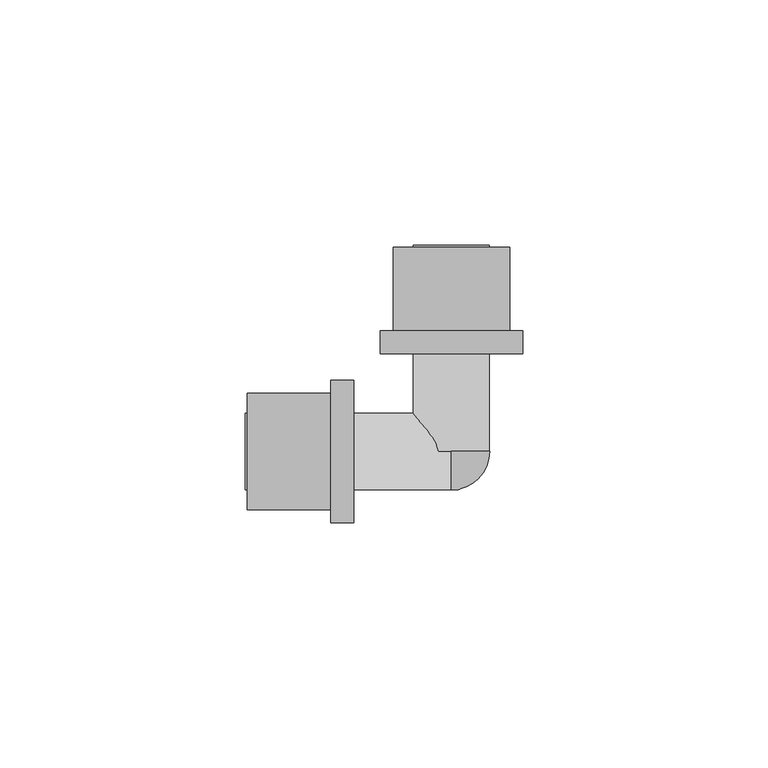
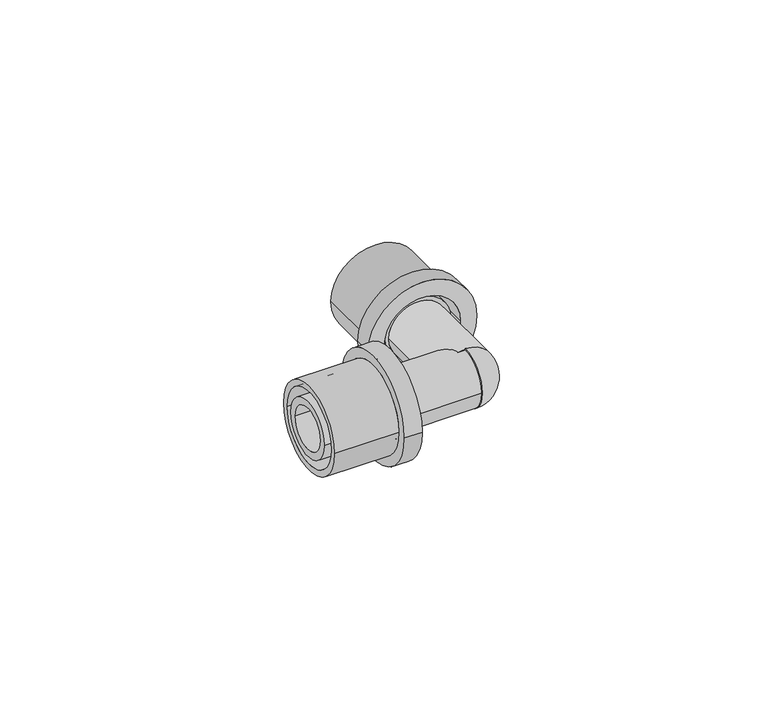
"""IFC4 building model written with IfcOpenShell, lengths in millimetres: pipe fitting geometry, FASTLOC_Corner EX+ : FSL C EX+ AT."""

from ifc_helpers import new_model, si_unit, point, frame, origin, place, context, project, spatial, polyline, circle_curve, ellipse_curve, trimmed, source, transform, mapped, element, save
from ifc_brep_helpers import plane_surface, cylinder_surface, revolved_surface, advanced_brep


def pipe_fitting_43ece0d2(model_context):
    return source(origin(), model_context, "Body", "AdvancedBrep", [
        advanced_brep(
        [(-14.5, 24.6, 0.0), (14.5, 24.6, 0.0), (14.5, 19.9, 0.0), (-14.5, 19.9, 0.0), (-11.85, 41.6, 0.0), (11.85, 41.6, 0.0), (11.85, 24.6, 0.0), (-11.85, 24.6, 0.0), (-10.15, 19.9, 0.0), (10.15, 19.9, 0.0), (10.15, 41.6, 0.0), (-10.15, 41.6, 0.0)],
        [
            (0, 1, circle_curve(frame((0.0, 24.6, 0.0), z_axis=(0.0, -1.0, 0.0), x_axis=(1.0, 0.0, 0.0)), 14.5)),
            (1, 2),
            (2, 3, circle_curve(frame((0.0, 19.9, 0.0), z_axis=(0.0, 1.0, 0.0), x_axis=(1.0, 0.0, 0.0)), 14.5)),
            (3, 0),
            (4, 5, circle_curve(frame((0.0, 41.6, 0.0), z_axis=(0.0, -1.0, 0.0), x_axis=(1.0, 0.0, 0.0)), 11.85)),
            (5, 6),
            (6, 7, circle_curve(frame((0.0, 24.6, 0.0), z_axis=(0.0, 1.0, 0.0), x_axis=(1.0, 0.0, 0.0)), 11.85)),
            (7, 4),
            (8, 9, circle_curve(frame((0.0, 19.9, 0.0), z_axis=(0.0, -1.0, 0.0), x_axis=(1.0, 0.0, 0.0)), 10.15)),
            (9, 10),
            (10, 11, circle_curve(frame((0.0, 41.6, 0.0), z_axis=(0.0, 1.0, 0.0), x_axis=(1.0, 0.0, 0.0)), 10.15)),
            (11, 8),
            (1, 0, circle_curve(frame((0.0, 24.6, 0.0), z_axis=(0.0, -1.0, 0.0), x_axis=(-1.0, 0.0, 0.0)), 14.5)),
            (3, 2, circle_curve(frame((0.0, 19.9, 0.0), z_axis=(0.0, 1.0, 0.0), x_axis=(-1.0, 0.0, 0.0)), 14.5)),
            (6, 7, circle_curve(frame((0.0, 24.6, 0.0), z_axis=(0.0, -1.0, 0.0), x_axis=(-1.0, 0.0, 0.0)), 11.85)),
            (5, 4, circle_curve(frame((0.0, 41.6, 0.0), z_axis=(0.0, -1.0, 0.0), x_axis=(-1.0, 0.0, 0.0)), 11.85)),
            (10, 11, circle_curve(frame((0.0, 41.6, 0.0), z_axis=(0.0, -1.0, 0.0), x_axis=(-1.0, 0.0, 0.0)), 10.15)),
            (9, 8, circle_curve(frame((0.0, 19.9, 0.0), z_axis=(0.0, -1.0, 0.0), x_axis=(-1.0, 0.0, 0.0)), 10.15)),
        ],
        [
            cylinder_surface(frame((0.0, 19.9, 0.0), z_axis=(0.0, 1.0, 0.0), x_axis=(1.0, 0.0, 0.0)), 14.5),
            cylinder_surface(frame((0.0, 19.9, 0.0), z_axis=(0.0, 1.0, 0.0), x_axis=(1.0, 0.0, 0.0)), 11.85),
            revolved_surface(polyline([(10.15, 41.6, 0.0), (10.15, 19.9, 0.0)]), (0.0, 19.9, 0.0), (0.0, 1.0, 0.0)),
            cylinder_surface(frame((0.0, 19.9, 0.0), z_axis=(0.0, 1.0, 0.0), x_axis=(-1.0, 0.0, 0.0)), 14.5),
            plane_surface(frame((0.0, 24.6, 0.0), z_axis=(0.0, 1.0, 0.0), x_axis=(-1.0, 0.0, 0.0))),
            cylinder_surface(frame((0.0, 19.9, 0.0), z_axis=(0.0, 1.0, 0.0), x_axis=(-1.0, 0.0, 0.0)), 11.85),
            plane_surface(frame((0.0, 41.6, 0.0), z_axis=(0.0, 1.0, 0.0), x_axis=(-1.0, 0.0, 0.0))),
            revolved_surface(polyline([(-10.15, 41.6, 0.0), (-10.15, 19.9, 0.0)]), (0.0, 19.9, 0.0), (0.0, 1.0, 0.0)),
            plane_surface(frame((0.0, 19.9, 0.0), z_axis=(0.0, -1.0, 0.0), x_axis=(-1.0, 0.0, 0.0))),
        ],
        [
            (0, [[1, 2, 3, 4]]),
            (1, [[5, 6, 7, 8]]),
            (2, [[9, 10, 11, 12]]),
            (3, [[13, -4, 14, -2]]),
            (4, [[-13, -1], [15, -7]]),
            (5, [[16, -8, -15, -6]]),
            (6, [[-16, -5], [17, -11]]),
            (7, [[18, -12, -17, -10]]),
            (8, [[-14, -3], [-18, -9]]),
        ],
    ),
        advanced_brep(
        [(-24.6, -14.5, 0.0), (-24.6, 14.5, 0.0), (-19.9, 14.5, 0.0), (-19.9, -14.5, 0.0), (-41.6, -11.85, 0.0), (-41.6, 11.85, 0.0), (-24.6, 11.85, 0.0), (-24.6, -11.85, 0.0), (-19.9, -10.15, 0.0), (-19.9, 10.15, 0.0), (-41.6, 10.15, 0.0), (-41.6, -10.15, 0.0)],
        [
            (0, 1, circle_curve(frame((-24.6, 0.0, 0.0), z_axis=(1.0, 0.0, 0.0), x_axis=(0.0, 1.0, 0.0)), 14.5)),
            (1, 2),
            (2, 3, circle_curve(frame((-19.9, 0.0, 0.0), z_axis=(-1.0, 0.0, 0.0), x_axis=(0.0, 1.0, 0.0)), 14.5)),
            (3, 0),
            (4, 5, circle_curve(frame((-41.6, 0.0, 0.0), z_axis=(1.0, 0.0, 0.0), x_axis=(0.0, 1.0, 0.0)), 11.85)),
            (5, 6),
            (6, 7, circle_curve(frame((-24.6, 0.0, 0.0), z_axis=(-1.0, 0.0, 0.0), x_axis=(0.0, 1.0, 0.0)), 11.85)),
            (7, 4),
            (8, 9, circle_curve(frame((-19.9, 0.0, 0.0), z_axis=(1.0, 0.0, 0.0), x_axis=(0.0, 1.0, 0.0)), 10.15)),
            (9, 10),
            (10, 11, circle_curve(frame((-41.6, 0.0, 0.0), z_axis=(-1.0, 0.0, 0.0), x_axis=(0.0, 1.0, 0.0)), 10.15)),
            (11, 8),
            (1, 0, circle_curve(frame((-24.6, 0.0, 0.0), z_axis=(1.0, 0.0, 0.0), x_axis=(0.0, -1.0, 0.0)), 14.5)),
            (3, 2, circle_curve(frame((-19.9, 0.0, 0.0), z_axis=(-1.0, 0.0, 0.0), x_axis=(0.0, -1.0, 0.0)), 14.5)),
            (6, 7, circle_curve(frame((-24.6, 0.0, 0.0), z_axis=(1.0, 0.0, 0.0), x_axis=(0.0, -1.0, 0.0)), 11.85)),
            (5, 4, circle_curve(frame((-41.6, 0.0, 0.0), z_axis=(1.0, 0.0, 0.0), x_axis=(0.0, -1.0, 0.0)), 11.85)),
            (10, 11, circle_curve(frame((-41.6, 0.0, 0.0), z_axis=(1.0, 0.0, 0.0), x_axis=(0.0, -1.0, 0.0)), 10.15)),
            (9, 8, circle_curve(frame((-19.9, 0.0, 0.0), z_axis=(1.0, 0.0, 0.0), x_axis=(0.0, -1.0, 0.0)), 10.15)),
        ],
        [
            cylinder_surface(frame((-19.9, 0.0, 0.0), z_axis=(-1.0, 0.0, 0.0), x_axis=(0.0, 1.0, 0.0)), 14.5),
            cylinder_surface(frame((-19.9, 0.0, 0.0), z_axis=(-1.0, 0.0, 0.0), x_axis=(0.0, 1.0, 0.0)), 11.85),
            revolved_surface(polyline([(-41.6, 10.15, 0.0), (-19.9, 10.15, 0.0)]), (-19.9, 0.0, 0.0), (-1.0, 0.0, 0.0)),
            cylinder_surface(frame((-19.9, 0.0, 0.0), z_axis=(-1.0, 0.0, 0.0), x_axis=(0.0, -1.0, 0.0)), 14.5),
            plane_surface(frame((-24.6, 0.0, 0.0), z_axis=(-1.0, 0.0, 0.0), x_axis=(0.0, -1.0, 0.0))),
            cylinder_surface(frame((-19.9, 0.0, 0.0), z_axis=(-1.0, 0.0, 0.0), x_axis=(0.0, -1.0, 0.0)), 11.85),
            plane_surface(frame((-41.6, 0.0, 0.0), z_axis=(-1.0, 0.0, 0.0), x_axis=(0.0, -1.0, 0.0))),
            revolved_surface(polyline([(-41.6, -10.15, 0.0), (-19.9, -10.15, 0.0)]), (-19.9, 0.0, 0.0), (-1.0, 0.0, 0.0)),
            plane_surface(frame((-19.9, 0.0, 0.0), z_axis=(1.0, 0.0, 0.0), x_axis=(0.0, -1.0, 0.0))),
        ],
        [
            (0, [[1, 2, 3, 4]]),
            (1, [[5, 6, 7, 8]]),
            (2, [[9, 10, 11, 12]]),
            (3, [[13, -4, 14, -2]]),
            (4, [[-13, -1], [15, -7]]),
            (5, [[16, -8, -15, -6]]),
            (6, [[-16, -5], [17, -11]]),
            (7, [[18, -12, -17, -10]]),
            (8, [[-14, -3], [-18, -9]]),
        ],
    ),
        advanced_brep(
        [(0.0, 0.0, 7.8), (0.0, 0.0, 0.0), (0.0, -7.8, 0.0), (0.0, 0.0, -7.8)],
        [
            (0, 1),
            (1, 2),
            (2, 0, circle_curve(frame((0.0, 0.0, 0.0), z_axis=(-1.0, 0.0, 0.0), x_axis=(0.0, 0.0, 1.0)), 7.8)),
            (3, 2, circle_curve(frame((0.0, 0.0, 0.0), z_axis=(-1.0, 0.0, 0.0), x_axis=(0.0, 0.0, -1.0)), 7.8)),
            (1, 3),
            (0, 3, circle_curve(frame((0.0, 0.0, 0.0), z_axis=(0.0, 1.0, 0.0), x_axis=(0.0, 0.0, 1.0)), 7.8)),
        ],
        [
            plane_surface(frame((0.0, 0.0, 0.0), z_axis=(-1.0, 0.0, 0.0), x_axis=(0.0, 0.0, 1.0))),
            plane_surface(frame((0.0, 0.0, 0.0), z_axis=(-1.0, 0.0, 0.0), x_axis=(0.0, 0.0, -1.0))),
            plane_surface(frame((0.0, 0.0, 0.0), z_axis=(0.0, 1.0, 0.0), x_axis=(0.0, 0.0, 1.0))),
            revolved_surface(trimmed(ellipse_curve(frame((0.0, 0.0, 0.0), z_axis=(-1.0, 0.0, 0.0), x_axis=(0.0, 0.0, 1.0)), 7.8, 7.8), [point((0.0, -7.8, 0.0))], [point((0.0, 0.0, 7.8))], True, "CARTESIAN"), (0.0, 0.0, 0.0), (0.0, 1.0, 0.0)),
        ],
        [
            (0, [[1, 2, 3]]),
            (1, [[4, -2, 5]]),
            (2, [[-1, 6, -5]]),
            (3, [[-6, -3, -4]]),
        ],
    ),
        advanced_brep(
        [(5.75, 42.0, 0.0), (-5.75, 42.0, 0.0), (-5.75, 0.0, 0.0), (5.75, 0.0, 0.0), (7.75, 24.6, 0.0), (-7.75, 24.6, 0.0), (-7.75, 42.0, 0.0), (7.75, 42.0, 0.0), (8.8, 21.9, 0.0), (-8.8, 21.9, 0.0), (-8.8, 24.6, 0.0), (8.8, 24.6, 0.0), (7.75, 0.0, 0.0), (-7.75, 0.0, 0.0), (-7.75, 21.9, 0.0), (7.75, 21.9, 0.0)],
        [
            (0, 1, circle_curve(frame((0.0, 42.0, 0.0), z_axis=(0.0, 1.0, 0.0), x_axis=(-1.0, 0.0, 0.0)), 5.75)),
            (1, 2),
            (2, 3, circle_curve(frame((0.0, 0.0, 0.0), z_axis=(0.0, -1.0, 0.0), x_axis=(-1.0, 0.0, 0.0)), 5.75)),
            (3, 0),
            (4, 5, circle_curve(frame((0.0, 24.6, 0.0), z_axis=(0.0, 1.0, 0.0), x_axis=(-1.0, 0.0, 0.0)), 7.75)),
            (5, 6),
            (6, 7, circle_curve(frame((0.0, 42.0, 0.0), z_axis=(0.0, -1.0, 0.0), x_axis=(-1.0, 0.0, 0.0)), 7.75)),
            (7, 4),
            (8, 9, circle_curve(frame((0.0, 21.9, 0.0), z_axis=(0.0, 1.0, 0.0), x_axis=(-1.0, 0.0, 0.0)), 8.8)),
            (9, 10),
            (10, 11, circle_curve(frame((0.0, 24.6, 0.0), z_axis=(0.0, -1.0, 0.0), x_axis=(-1.0, 0.0, 0.0)), 8.8)),
            (11, 8),
            (12, 13, circle_curve(frame((0.0, 0.0, 0.0), z_axis=(0.0, 1.0, 0.0), x_axis=(-1.0, 0.0, 0.0)), 7.75)),
            (13, 14),
            (14, 15, circle_curve(frame((0.0, 21.9, 0.0), z_axis=(0.0, -1.0, 0.0), x_axis=(-1.0, 0.0, 0.0)), 7.75)),
            (15, 12),
            (1, 0, circle_curve(frame((0.0, 42.0, 0.0), z_axis=(0.0, 1.0, 0.0), x_axis=(1.0, 0.0, 0.0)), 5.75)),
            (3, 2, circle_curve(frame((0.0, 0.0, 0.0), z_axis=(0.0, -1.0, 0.0), x_axis=(1.0, 0.0, 0.0)), 5.75)),
            (6, 7, circle_curve(frame((0.0, 42.0, 0.0), z_axis=(0.0, 1.0, 0.0), x_axis=(1.0, 0.0, 0.0)), 7.75)),
            (5, 4, circle_curve(frame((0.0, 24.6, 0.0), z_axis=(0.0, 1.0, 0.0), x_axis=(1.0, 0.0, 0.0)), 7.75)),
            (10, 11, circle_curve(frame((0.0, 24.6, 0.0), z_axis=(0.0, 1.0, 0.0), x_axis=(1.0, 0.0, 0.0)), 8.8)),
            (9, 8, circle_curve(frame((0.0, 21.9, 0.0), z_axis=(0.0, 1.0, 0.0), x_axis=(1.0, 0.0, 0.0)), 8.8)),
            (14, 15, circle_curve(frame((0.0, 21.9, 0.0), z_axis=(0.0, 1.0, 0.0), x_axis=(1.0, 0.0, 0.0)), 7.75)),
            (13, 12, circle_curve(frame((0.0, 0.0, 0.0), z_axis=(0.0, 1.0, 0.0), x_axis=(1.0, 0.0, 0.0)), 7.75)),
        ],
        [
            revolved_surface(polyline([(-5.75, 0.0, 0.0), (-5.75, 42.0, 0.0)]), (0.0, 0.0, 0.0), (0.0, -1.0, 0.0)),
            cylinder_surface(frame((0.0, 0.0, 0.0), z_axis=(0.0, -1.0, 0.0), x_axis=(-1.0, 0.0, 0.0)), 7.75),
            cylinder_surface(frame((0.0, 0.0, 0.0), z_axis=(0.0, -1.0, 0.0), x_axis=(-1.0, 0.0, 0.0)), 8.8),
            revolved_surface(polyline([(5.75, 0.0, 0.0), (5.75, 42.0, 0.0)]), (0.0, 0.0, 0.0), (0.0, -1.0, 0.0)),
            plane_surface(frame((0.0, 42.0, 0.0), z_axis=(0.0, 1.0, 0.0), x_axis=(1.0, 0.0, 0.0))),
            cylinder_surface(frame((0.0, 0.0, 0.0), z_axis=(0.0, -1.0, 0.0), x_axis=(1.0, 0.0, 0.0)), 7.75),
            plane_surface(frame((0.0, 24.6, 0.0), z_axis=(0.0, 1.0, 0.0), x_axis=(1.0, 0.0, 0.0))),
            cylinder_surface(frame((0.0, 0.0, 0.0), z_axis=(0.0, -1.0, 0.0), x_axis=(1.0, 0.0, 0.0)), 8.8),
            plane_surface(frame((0.0, 21.9, 0.0), z_axis=(0.0, -1.0, 0.0), x_axis=(1.0, 0.0, 0.0))),
            plane_surface(frame((0.0, 0.0, 0.0), z_axis=(0.0, -1.0, 0.0), x_axis=(1.0, 0.0, 0.0))),
        ],
        [
            (0, [[1, 2, 3, 4]]),
            (1, [[5, 6, 7, 8]]),
            (2, [[9, 10, 11, 12]]),
            (1, [[13, 14, 15, 16]]),
            (3, [[17, -4, 18, -2]]),
            (4, [[19, -7], [-17, -1]]),
            (5, [[20, -8, -19, -6]]),
            (6, [[21, -11], [-20, -5]]),
            (7, [[22, -12, -21, -10]]),
            (8, [[-22, -9], [23, -15]]),
            (5, [[24, -16, -23, -14]]),
            (9, [[-24, -13], [-18, -3]]),
        ],
    ),
        advanced_brep(
        [(0.0, 7.75, 0.0), (0.0, -7.75, 0.0), (-21.9, -7.75, 0.0), (-21.9, 7.75, 0.0), (-21.9, 8.8, 0.0), (-21.9, -8.8, 0.0), (-24.6, -8.8, 0.0), (-24.6, 8.8, 0.0), (-24.6, 7.75, 0.0), (-24.6, -7.75, 0.0), (-42.0, -7.75, 0.0), (-42.0, 7.75, 0.0), (-42.0, 5.75, 0.0), (-42.0, -5.75, 0.0), (0.0, -5.75, 0.0), (0.0, 5.75, 0.0)],
        [
            (0, 1, circle_curve(frame((0.0, 0.0, 0.0), z_axis=(-1.0, 0.0, 0.0), x_axis=(0.0, -1.0, 0.0)), 7.75)),
            (1, 2),
            (2, 3, circle_curve(frame((-21.9, 0.0, 0.0), z_axis=(1.0, 0.0, 0.0), x_axis=(0.0, -1.0, 0.0)), 7.75)),
            (3, 0),
            (4, 5, circle_curve(frame((-21.9, 0.0, 0.0), z_axis=(-1.0, 0.0, 0.0), x_axis=(0.0, -1.0, 0.0)), 8.8)),
            (5, 6),
            (6, 7, circle_curve(frame((-24.6, 0.0, 0.0), z_axis=(1.0, 0.0, 0.0), x_axis=(0.0, -1.0, 0.0)), 8.8)),
            (7, 4),
            (8, 9, circle_curve(frame((-24.6, 0.0, 0.0), z_axis=(-1.0, 0.0, 0.0), x_axis=(0.0, -1.0, 0.0)), 7.75)),
            (9, 10),
            (10, 11, circle_curve(frame((-42.0, 0.0, 0.0), z_axis=(1.0, 0.0, 0.0), x_axis=(0.0, -1.0, 0.0)), 7.75)),
            (11, 8),
            (12, 13, circle_curve(frame((-42.0, 0.0, 0.0), z_axis=(-1.0, 0.0, 0.0), x_axis=(0.0, -1.0, 0.0)), 5.75)),
            (13, 14),
            (14, 15, circle_curve(frame((0.0, 0.0, 0.0), z_axis=(1.0, 0.0, 0.0), x_axis=(0.0, -1.0, 0.0)), 5.75)),
            (15, 12),
            (0, 1, circle_curve(frame((0.0, 0.0, 0.0), z_axis=(1.0, 0.0, 0.0), x_axis=(0.0, 1.0, 0.0)), 7.75)),
            (14, 15, circle_curve(frame((0.0, 0.0, 0.0), z_axis=(-1.0, 0.0, 0.0), x_axis=(0.0, 1.0, 0.0)), 5.75)),
            (3, 2, circle_curve(frame((-21.9, 0.0, 0.0), z_axis=(1.0, 0.0, 0.0), x_axis=(0.0, 1.0, 0.0)), 7.75)),
            (4, 5, circle_curve(frame((-21.9, 0.0, 0.0), z_axis=(1.0, 0.0, 0.0), x_axis=(0.0, 1.0, 0.0)), 8.8)),
            (7, 6, circle_curve(frame((-24.6, 0.0, 0.0), z_axis=(1.0, 0.0, 0.0), x_axis=(0.0, 1.0, 0.0)), 8.8)),
            (8, 9, circle_curve(frame((-24.6, 0.0, 0.0), z_axis=(1.0, 0.0, 0.0), x_axis=(0.0, 1.0, 0.0)), 7.75)),
            (11, 10, circle_curve(frame((-42.0, 0.0, 0.0), z_axis=(1.0, 0.0, 0.0), x_axis=(0.0, 1.0, 0.0)), 7.75)),
            (12, 13, circle_curve(frame((-42.0, 0.0, 0.0), z_axis=(1.0, 0.0, 0.0), x_axis=(0.0, 1.0, 0.0)), 5.75)),
        ],
        [
            cylinder_surface(frame((0.0, 0.0, 0.0), z_axis=(1.0, 0.0, 0.0), x_axis=(0.0, -1.0, 0.0)), 7.75),
            cylinder_surface(frame((0.0, 0.0, 0.0), z_axis=(1.0, 0.0, 0.0), x_axis=(0.0, -1.0, 0.0)), 8.8),
            revolved_surface(polyline([(0.0, -5.75, 0.0), (-42.0, -5.75, 0.0)]), (0.0, 0.0, 0.0), (1.0, 0.0, 0.0)),
            plane_surface(frame((0.0, 0.0, 0.0), z_axis=(1.0, 0.0, 0.0), x_axis=(0.0, 1.0, 0.0))),
            cylinder_surface(frame((0.0, 0.0, 0.0), z_axis=(1.0, 0.0, 0.0), x_axis=(0.0, 1.0, 0.0)), 7.75),
            plane_surface(frame((-21.9, 0.0, 0.0), z_axis=(1.0, 0.0, 0.0), x_axis=(0.0, 1.0, 0.0))),
            cylinder_surface(frame((0.0, 0.0, 0.0), z_axis=(1.0, 0.0, 0.0), x_axis=(0.0, 1.0, 0.0)), 8.8),
            plane_surface(frame((-24.6, 0.0, 0.0), z_axis=(-1.0, 0.0, 0.0), x_axis=(0.0, 1.0, 0.0))),
            plane_surface(frame((-42.0, 0.0, 0.0), z_axis=(-1.0, 0.0, 0.0), x_axis=(0.0, 1.0, 0.0))),
            revolved_surface(polyline([(0.0, 5.75, 0.0), (-42.0, 5.75, 0.0)]), (0.0, 0.0, 0.0), (1.0, 0.0, 0.0)),
        ],
        [
            (0, [[1, 2, 3, 4]]),
            (1, [[5, 6, 7, 8]]),
            (0, [[9, 10, 11, 12]]),
            (2, [[13, 14, 15, 16]]),
            (3, [[17, -1], [18, -15]]),
            (4, [[-17, -4, 19, -2]]),
            (5, [[20, -5], [-19, -3]]),
            (6, [[-20, -8, 21, -6]]),
            (7, [[-21, -7], [22, -9]]),
            (4, [[-22, -12, 23, -10]]),
            (8, [[-23, -11], [24, -13]]),
            (9, [[-24, -16, -18, -14]]),
        ],
    ),
    ])


if __name__ == "__main__":
    model = new_model("IFC4")
    model_context = context("Model", 3, world=origin())
    ifc_project = project(units=[si_unit("LENGTHUNIT", "METRE", prefix="MILLI")], contexts=[model_context])
    site = spatial("IfcSite", under=ifc_project)
    building = spatial("IfcBuilding", under=site)
    placement = place(None, origin())
    pipe_fitting_shape = pipe_fitting_43ece0d2(model_context)
    element("IfcPipeFitting", 1, ObjectType="FASTLOC_Corner EX+ : FSL C EX+ AT", at=placement, inside=building, context=model_context, shape_type="MappedRepresentation", body=[
        mapped(pipe_fitting_shape, transform((0.0, 0.0, 0.0), x_axis=(1.0, 0.0, 0.0), y_axis=(0.0, 1.0, 0.0), z_axis=(0.0, 0.0, 1.0))),
    ])
    save(model, "model.ifc")
